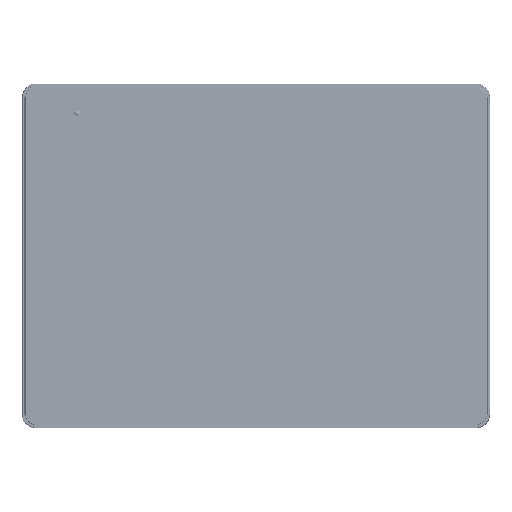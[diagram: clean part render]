
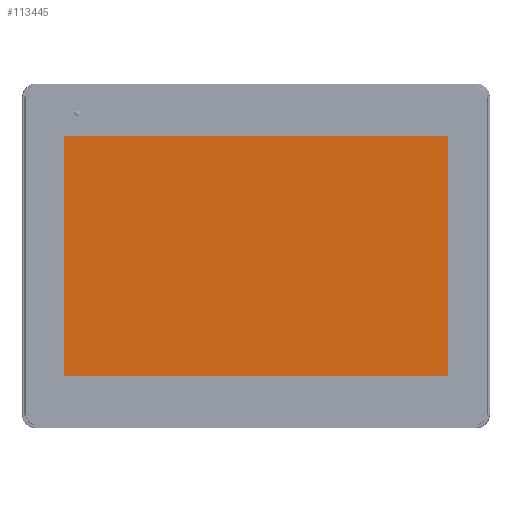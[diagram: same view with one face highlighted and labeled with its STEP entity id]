
A CAD part, top view. The second image highlights one B-rep face of the part: STEP entity #113445.
In plain terms, the highlighted planar face has unit normal (0, 0, 1) as drawn and (0, 1, 0) by its records, which use the part's own axes.
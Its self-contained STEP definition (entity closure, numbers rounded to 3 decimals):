
#18774 = AXIS2_PLACEMENT_3D ( 'NONE', #424941, #115671, #36752 ) ;
#36752 = DIRECTION ( 'NONE',  ( -1., 0., 0. ) ) ;
#37336 = VECTOR ( 'NONE', #306444, 1000. ) ;
#54799 = DIRECTION ( 'NONE',  ( 1., 0., 0. ) ) ;
#57424 = EDGE_CURVE ( 'NONE', #300901, #129212, #195121, .T. ) ;
#62334 = CARTESIAN_POINT ( 'NONE',  ( -108.98, 2.835, 0. ) ) ;
#64499 = DIRECTION ( 'NONE',  ( 0., 0., -1. ) ) ;
#77286 = EDGE_CURVE ( 'NONE', #129212, #190434, #348141, .T. ) ;
#94206 = CARTESIAN_POINT ( 'NONE',  ( 0., 2.835, 68.3 ) ) ;
#113411 = PLANE ( 'NONE',  #18774 ) ;
#113445 = ADVANCED_FACE ( 'NONE', ( #327247 ), #113411, .T. ) ;
#115671 = DIRECTION ( 'NONE',  ( 0., 1., 0. ) ) ;
#125549 = ORIENTED_EDGE ( 'NONE', *, *, #57424, .T. ) ;
#129212 = VERTEX_POINT ( 'NONE', #254671 ) ;
#168175 = VECTOR ( 'NONE', #367243, 1000. ) ;
#171394 = CARTESIAN_POINT ( 'NONE',  ( 108.98, 2.835, 0. ) ) ;
#190434 = VERTEX_POINT ( 'NONE', #313104 ) ;
#195121 = LINE ( 'NONE', #310689, #168175 ) ;
#241083 = LINE ( 'NONE', #171394, #309068 ) ;
#244206 = ORIENTED_EDGE ( 'NONE', *, *, #77286, .T. ) ;
#254671 = CARTESIAN_POINT ( 'NONE',  ( -108.98, 2.835, -68.3 ) ) ;
#278889 = CARTESIAN_POINT ( 'NONE',  ( 108.98, 2.835, 68.3 ) ) ;
#284957 = VERTEX_POINT ( 'NONE', #278889 ) ;
#293137 = VECTOR ( 'NONE', #54799, 1000. ) ;
#300901 = VERTEX_POINT ( 'NONE', #424475 ) ;
#306444 = DIRECTION ( 'NONE',  ( 0., 0., 1. ) ) ;
#309068 = VECTOR ( 'NONE', #64499, 1000. ) ;
#310689 = CARTESIAN_POINT ( 'NONE',  ( 0., 2.835, -68.3 ) ) ;
#313104 = CARTESIAN_POINT ( 'NONE',  ( -108.98, 2.835, 68.3 ) ) ;
#327247 = FACE_OUTER_BOUND ( 'NONE', #423337, .T. ) ;
#348141 = LINE ( 'NONE', #62334, #37336 ) ;
#357232 = EDGE_CURVE ( 'NONE', #284957, #300901, #241083, .T. ) ;
#367243 = DIRECTION ( 'NONE',  ( -1., 0., 0. ) ) ;
#386433 = ORIENTED_EDGE ( 'NONE', *, *, #428458, .T. ) ;
#412620 = LINE ( 'NONE', #94206, #293137 ) ;
#423337 = EDGE_LOOP ( 'NONE', ( #244206, #386433, #435901, #125549 ) ) ;
#424475 = CARTESIAN_POINT ( 'NONE',  ( 108.98, 2.835, -68.3 ) ) ;
#424941 = CARTESIAN_POINT ( 'NONE',  ( 113.339, 2.835, -71.032 ) ) ;
#428458 = EDGE_CURVE ( 'NONE', #190434, #284957, #412620, .T. ) ;
#435901 = ORIENTED_EDGE ( 'NONE', *, *, #357232, .T. ) ;
